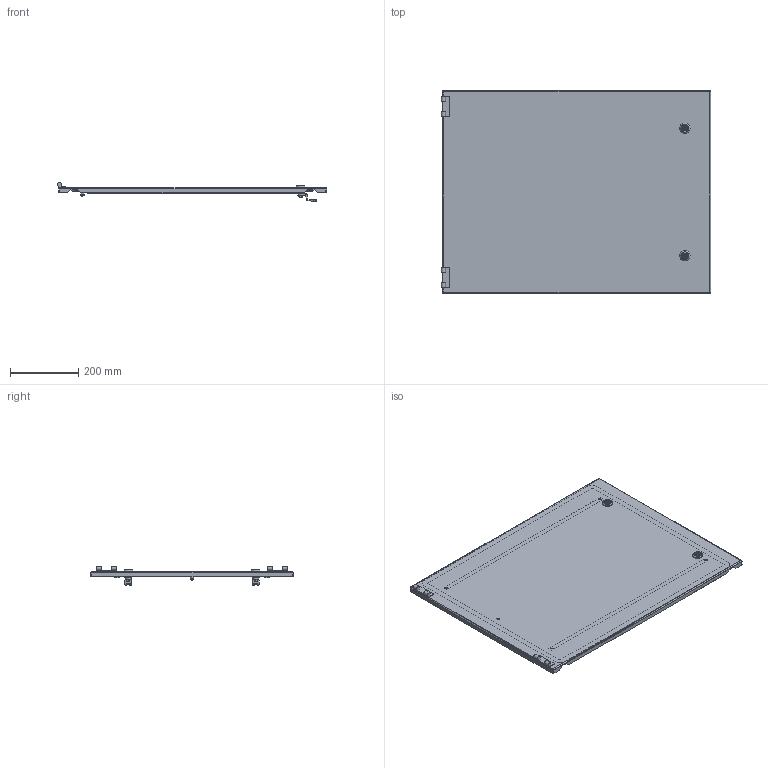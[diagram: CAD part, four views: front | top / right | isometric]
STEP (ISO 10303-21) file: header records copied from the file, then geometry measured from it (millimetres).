
FILE_DESCRIPTION (( 'STEP AP214' ), '1' );
FILE_NAME ('D 60.80 M Äâåðü ñåêöèîííàÿ ãëóõàÿ.STEP', '2016-10-10T07:04:40', ( '' ), ( '' ), 'SwSTEP 2.0', 'SolidWorks 2012', '' );
FILE_SCHEMA (( 'AUTOMOTIVE_DESIGN' ));
Length unit declared in the file: millimetre
Products named in the file (1): D 60.80 M Äâåðü ñåêöèîííàÿ ãëóõàÿ
Bounding box: 788.2 x 594 x 56.33 mm (x, y, z)
Volume: 1356079.5 mm3; surface area: 1236112.3 mm2
Topology: 12 solids, 12 shells, 718 faces, 1873 edges, 1196 vertices
Faces by surface type: cylinder 307, plane 299, cone 64, bspline 22, torus 18, sphere 8
Entity records: 23657 total; most frequent: CARTESIAN_POINT 5314, DIRECTION 3815, ORIENTED_EDGE 3730, EDGE_CURVE 1865, AXIS2_PLACEMENT_3D 1415, VERTEX_POINT 1196, LINE 985, VECTOR 985
